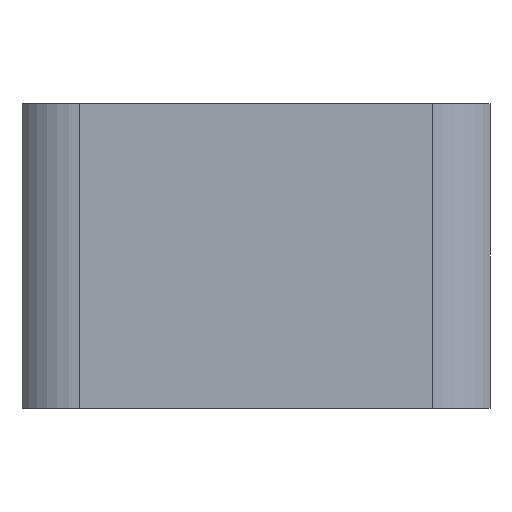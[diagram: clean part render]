
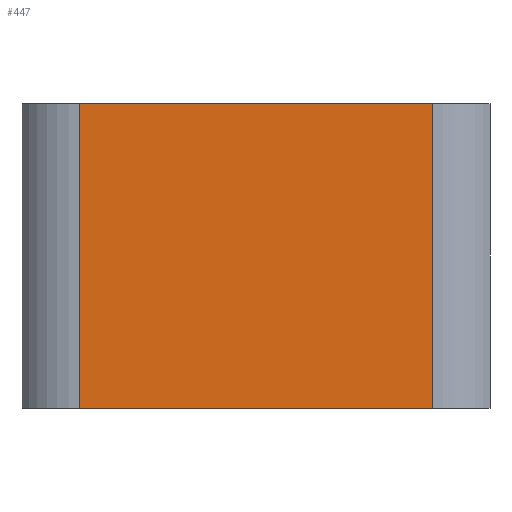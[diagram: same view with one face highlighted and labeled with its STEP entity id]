
A CAD part, left-side view. The second image highlights one B-rep face of the part: STEP entity #447.
In plain terms, the highlighted planar face has unit normal (-1, 0, 0).
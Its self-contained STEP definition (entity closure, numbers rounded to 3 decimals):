
#33 = PLANE('',#34);
#34 = AXIS2_PLACEMENT_3D('',#35,#36,#37);
#35 = CARTESIAN_POINT('',(-41.9,-42.,15.));
#36 = DIRECTION('',(0.,0.,1.));
#37 = DIRECTION('',(1.,0.,0.));
#62 = VERTEX_POINT('',#63);
#63 = CARTESIAN_POINT('',(-84.1,-29.7,15.));
#78 = CYLINDRICAL_SURFACE('',#79,12.3);
#79 = AXIS2_PLACEMENT_3D('',#80,#81,#82);
#80 = CARTESIAN_POINT('',(-71.8,-29.7,-39.));
#81 = DIRECTION('',(-0.,-0.,1.));
#82 = DIRECTION('',(-1.,-0.,-0.));
#90 = EDGE_CURVE('',#62,#91,#93,.T.);
#91 = VERTEX_POINT('',#92);
#92 = CARTESIAN_POINT('',(-84.1,32.7,15.));
#93 = SURFACE_CURVE('',#94,(#98,#105),.PCURVE_S1.);
#94 = LINE('',#95,#96);
#95 = CARTESIAN_POINT('',(-84.1,-42.,15.));
#96 = VECTOR('',#97,1.);
#97 = DIRECTION('',(-0.,1.,0.));
#98 = PCURVE('',#33,#99);
#99 = DEFINITIONAL_REPRESENTATION('',(#100),#104);
#100 = LINE('',#101,#102);
#101 = CARTESIAN_POINT('',(-42.2,0.));
#102 = VECTOR('',#103,1.);
#103 = DIRECTION('',(-0.,1.));
#104 = ( GEOMETRIC_REPRESENTATION_CONTEXT(2) 
PARAMETRIC_REPRESENTATION_CONTEXT() REPRESENTATION_CONTEXT('2D SPACE',''
  ) );
#105 = PCURVE('',#106,#111);
#106 = PLANE('',#107);
#107 = AXIS2_PLACEMENT_3D('',#108,#109,#110);
#108 = CARTESIAN_POINT('',(-84.1,-42.,-39.));
#109 = DIRECTION('',(-1.,-0.,0.));
#110 = DIRECTION('',(0.,0.,-1.));
#111 = DEFINITIONAL_REPRESENTATION('',(#112),#116);
#112 = LINE('',#113,#114);
#113 = CARTESIAN_POINT('',(-54.,-0.));
#114 = VECTOR('',#115,1.);
#115 = DIRECTION('',(-0.,-1.));
#116 = ( GEOMETRIC_REPRESENTATION_CONTEXT(2) 
PARAMETRIC_REPRESENTATION_CONTEXT() REPRESENTATION_CONTEXT('2D SPACE',''
  ) );
#139 = CYLINDRICAL_SURFACE('',#140,12.3);
#140 = AXIS2_PLACEMENT_3D('',#141,#142,#143);
#141 = CARTESIAN_POINT('',(-71.8,32.7,-39.));
#142 = DIRECTION('',(-0.,-0.,1.));
#143 = DIRECTION('',(-1.,-0.,-0.));
#253 = PLANE('',#254);
#254 = AXIS2_PLACEMENT_3D('',#255,#256,#257);
#255 = CARTESIAN_POINT('',(-41.9,-42.,-39.));
#256 = DIRECTION('',(0.,0.,1.));
#257 = DIRECTION('',(1.,0.,0.));
#397 = EDGE_CURVE('',#398,#91,#400,.T.);
#398 = VERTEX_POINT('',#399);
#399 = CARTESIAN_POINT('',(-84.1,32.7,-39.));
#400 = SURFACE_CURVE('',#401,(#405,#412),.PCURVE_S1.);
#401 = LINE('',#402,#403);
#402 = CARTESIAN_POINT('',(-84.1,32.7,-39.));
#403 = VECTOR('',#404,1.);
#404 = DIRECTION('',(-0.,-0.,1.));
#405 = PCURVE('',#139,#406);
#406 = DEFINITIONAL_REPRESENTATION('',(#407),#411);
#407 = LINE('',#408,#409);
#408 = CARTESIAN_POINT('',(-0.,0.));
#409 = VECTOR('',#410,1.);
#410 = DIRECTION('',(-0.,1.));
#411 = ( GEOMETRIC_REPRESENTATION_CONTEXT(2) 
PARAMETRIC_REPRESENTATION_CONTEXT() REPRESENTATION_CONTEXT('2D SPACE',''
  ) );
#412 = PCURVE('',#106,#413);
#413 = DEFINITIONAL_REPRESENTATION('',(#414),#418);
#414 = LINE('',#415,#416);
#415 = CARTESIAN_POINT('',(-0.,-74.7));
#416 = VECTOR('',#417,1.);
#417 = DIRECTION('',(-1.,-0.));
#418 = ( GEOMETRIC_REPRESENTATION_CONTEXT(2) 
PARAMETRIC_REPRESENTATION_CONTEXT() REPRESENTATION_CONTEXT('2D SPACE',''
  ) );
#447 = ADVANCED_FACE('',(#448),#106,.T.);
#448 = FACE_BOUND('',#449,.F.);
#449 = EDGE_LOOP('',(#450,#451,#474,#495));
#450 = ORIENTED_EDGE('',*,*,#90,.F.);
#451 = ORIENTED_EDGE('',*,*,#452,.F.);
#452 = EDGE_CURVE('',#453,#62,#455,.T.);
#453 = VERTEX_POINT('',#454);
#454 = CARTESIAN_POINT('',(-84.1,-29.7,-39.));
#455 = SURFACE_CURVE('',#456,(#460,#467),.PCURVE_S1.);
#456 = LINE('',#457,#458);
#457 = CARTESIAN_POINT('',(-84.1,-29.7,-39.));
#458 = VECTOR('',#459,1.);
#459 = DIRECTION('',(-0.,-0.,1.));
#460 = PCURVE('',#106,#461);
#461 = DEFINITIONAL_REPRESENTATION('',(#462),#466);
#462 = LINE('',#463,#464);
#463 = CARTESIAN_POINT('',(-0.,-12.3));
#464 = VECTOR('',#465,1.);
#465 = DIRECTION('',(-1.,-0.));
#466 = ( GEOMETRIC_REPRESENTATION_CONTEXT(2) 
PARAMETRIC_REPRESENTATION_CONTEXT() REPRESENTATION_CONTEXT('2D SPACE',''
  ) );
#467 = PCURVE('',#78,#468);
#468 = DEFINITIONAL_REPRESENTATION('',(#469),#473);
#469 = LINE('',#470,#471);
#470 = CARTESIAN_POINT('',(0.,0.));
#471 = VECTOR('',#472,1.);
#472 = DIRECTION('',(0.,1.));
#473 = ( GEOMETRIC_REPRESENTATION_CONTEXT(2) 
PARAMETRIC_REPRESENTATION_CONTEXT() REPRESENTATION_CONTEXT('2D SPACE',''
  ) );
#474 = ORIENTED_EDGE('',*,*,#475,.T.);
#475 = EDGE_CURVE('',#453,#398,#476,.T.);
#476 = SURFACE_CURVE('',#477,(#481,#488),.PCURVE_S1.);
#477 = LINE('',#478,#479);
#478 = CARTESIAN_POINT('',(-84.1,-42.,-39.));
#479 = VECTOR('',#480,1.);
#480 = DIRECTION('',(-0.,1.,0.));
#481 = PCURVE('',#106,#482);
#482 = DEFINITIONAL_REPRESENTATION('',(#483),#487);
#483 = LINE('',#484,#485);
#484 = CARTESIAN_POINT('',(-0.,-0.));
#485 = VECTOR('',#486,1.);
#486 = DIRECTION('',(-0.,-1.));
#487 = ( GEOMETRIC_REPRESENTATION_CONTEXT(2) 
PARAMETRIC_REPRESENTATION_CONTEXT() REPRESENTATION_CONTEXT('2D SPACE',''
  ) );
#488 = PCURVE('',#253,#489);
#489 = DEFINITIONAL_REPRESENTATION('',(#490),#494);
#490 = LINE('',#491,#492);
#491 = CARTESIAN_POINT('',(-42.2,0.));
#492 = VECTOR('',#493,1.);
#493 = DIRECTION('',(-0.,1.));
#494 = ( GEOMETRIC_REPRESENTATION_CONTEXT(2) 
PARAMETRIC_REPRESENTATION_CONTEXT() REPRESENTATION_CONTEXT('2D SPACE',''
  ) );
#495 = ORIENTED_EDGE('',*,*,#397,.T.);
